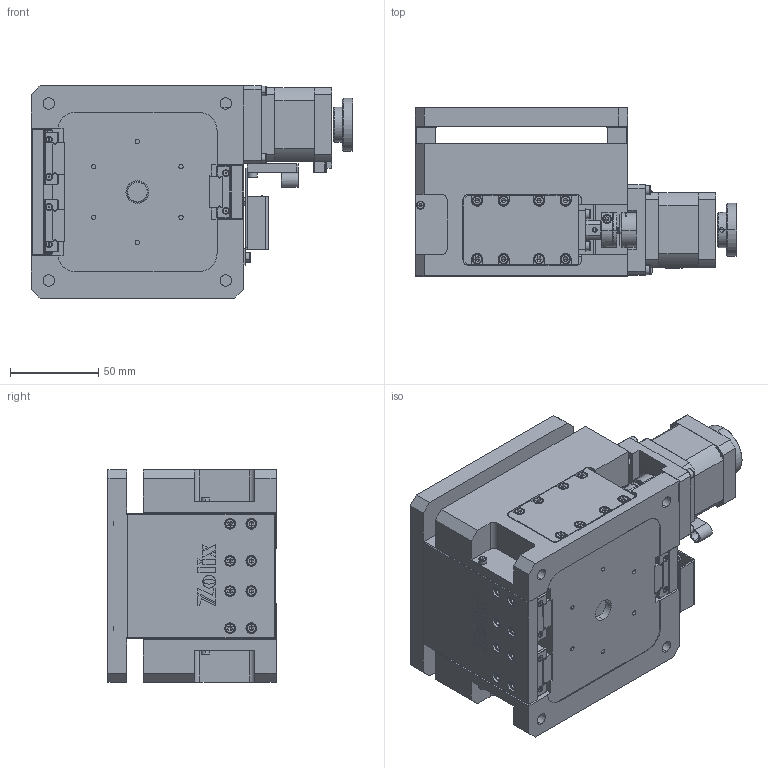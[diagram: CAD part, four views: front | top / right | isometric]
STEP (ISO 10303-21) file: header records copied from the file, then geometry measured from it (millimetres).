
FILE_DESCRIPTION (( 'STEP AP203' ), '1' );
FILE_NAME ('CZF20-120.step', '2019-05-06T07:47:50', ( '' ), ( '' ), 'SwSTEP 2.0', 'SolidWorks 2017', '' );
FILE_SCHEMA (( 'CONFIG_CONTROL_DESIGN' ));
Length unit declared in the file: millimetre
Products named in the file (1): CZF20-120
Bounding box: 181.88 x 95 x 120 mm (x, y, z)
Surface area: 161868.9 mm2 (no closed solid volume)
Topology: 0 solids, 115 shells, 1394 faces, 5356 edges, 3864 vertices
Faces by surface type: plane 855, cylinder 315, cone 114, torus 90, bspline 20
Entity records: 57438 total; most frequent: CARTESIAN_POINT 13741, DIRECTION 8893, ORIENTED_EDGE 7957, EDGE_CURVE 5272, VERTEX_POINT 3864, LINE 3321, VECTOR 3321, AXIS2_PLACEMENT_3D 2786
